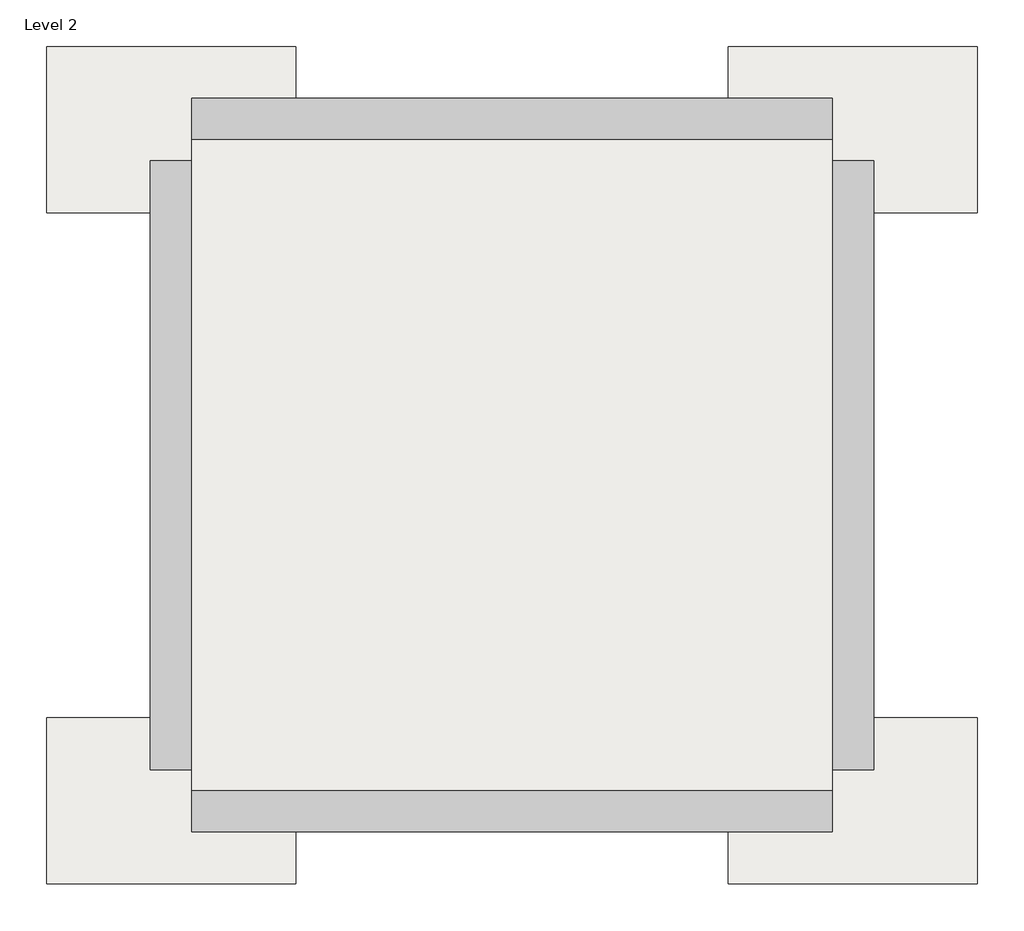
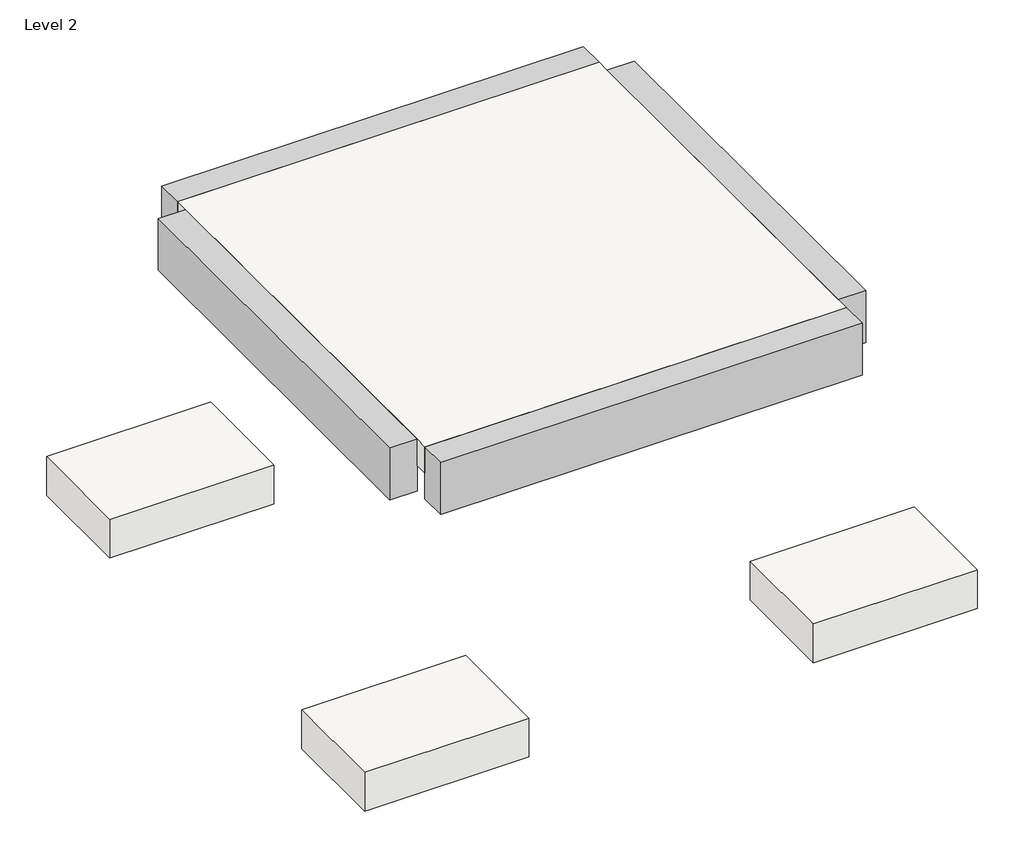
# One storey: 5 slabs, 4 beams.
"""IFC4 building model written with IfcOpenShell, lengths in millimetres."""

import ifcopenshell
import ifcopenshell.guid

model = None  # the IFC model being written
_history = None  # IfcOwnerHistory: only IFC2X3 demands one
_inside = {}  # id of a spatial element -> (the spatial element, [elements in it])
_under = {}  # id of a project, library or spatial element -> (it, [spatial elements below it])
_declared = {}  # id of a project -> (the project, [libraries it declares])
_typed = {}  # id of a type object -> (the type object, [elements of that type])
_made_of = {}  # id of a material, layer set ... -> (it, [elements and type objects made of it])


def new_model(schema):
    """Start an empty IFC model of exactly this schema.

    Asked for "IFC4X3", IfcOpenShell would pick the latest addendum, in which some entities
    have other attributes; the version numbers below select the first issue.
    IFC2X3 requires an IfcOwnerHistory on every rooted entity: one is made here for all.
    """
    global model, _history
    if schema == "IFC4X3":
        model = ifcopenshell.file(schema_version=(4, 3, 0, 0))
    else:
        model = ifcopenshell.file(schema=schema)
    _inside.clear()
    _under.clear()
    _declared.clear()
    _typed.clear()
    _made_of.clear()
    _history = None
    if model.schema == "IFC2X3":
        org = make("IfcOrganization", Name="unknown")
        user = make(
            "IfcPersonAndOrganization",
            ThePerson=make("IfcPerson", FamilyName="unknown"),
            TheOrganization=org,
        )
        app = make(
            "IfcApplication",
            ApplicationDeveloper=org,
            Version="unknown",
            ApplicationFullName="unknown",
            ApplicationIdentifier="unknown",
        )
        _history = make(
            "IfcOwnerHistory",
            OwningUser=user,
            OwningApplication=app,
            ChangeAction="ADDED",
            CreationDate=0,
        )
    return model


def make(cls, **values):
    """One entity of the class cls with the attributes given. An attribute that is None is left unset."""
    return model.create_entity(
        cls, **{name: value for name, value in values.items() if value is not None}
    )


def rooted(cls, **values):
    """An entity with a GlobalId (a new one), such as an element, a storey or a relation."""
    return make(cls, GlobalId=ifcopenshell.guid.new(), OwnerHistory=_history, **values)


def si_unit(unit_type, name, prefix=None):
    """IfcSIUnit, for example si_unit("LENGTHUNIT", "METRE", prefix="MILLI")."""
    return make("IfcSIUnit", UnitType=unit_type, Prefix=prefix, Name=name)


def assignment(units):
    """IfcUnitAssignment: the units of a project."""
    return None if units is None else make("IfcUnitAssignment", Units=units)


def point(xyz):
    """IfcCartesianPoint."""
    return None if xyz is None else make("IfcCartesianPoint", Coordinates=xyz)


def direction(xyz):
    """IfcDirection."""
    return None if xyz is None else make("IfcDirection", DirectionRatios=xyz)


def frame(location, z_axis=None, x_axis=None):
    """IfcAxis2Placement3D, a coordinate frame: its origin and axes. An axis left out is left unset."""
    return make(
        "IfcAxis2Placement3D",
        Location=point(location),
        Axis=direction(z_axis),
        RefDirection=direction(x_axis),
    )


def origin():
    """The frame at (0, 0, 0) with its axes left unset."""
    return frame((0.0, 0.0, 0.0))


def place(relative_to, where):
    """IfcLocalPlacement: puts the frame where relative to a parent placement (None: the world)."""
    return make(
        "IfcLocalPlacement", PlacementRelTo=relative_to, RelativePlacement=where
    )


def context(
    kind, dimensions, precision=None, world=None, true_north=None, identifier=None
):
    """IfcGeometricRepresentationContext, for example the 3D "Model" context."""
    return make(
        "IfcGeometricRepresentationContext",
        ContextIdentifier=identifier,
        ContextType=kind,
        CoordinateSpaceDimension=dimensions,
        Precision=precision,
        WorldCoordinateSystem=world,
        TrueNorth=true_north,
    )


def project(units=None, contexts=None):
    """IfcProject with its units and contexts."""
    return rooted(
        "IfcProject",
        Name="project",
        RepresentationContexts=contexts,
        UnitsInContext=assignment(units),
    )


def spatial(cls, under=None, at=None, **own):
    """A site, building, storey or space (cls), placed at a placement, below another one or the project."""
    s = rooted(cls, ObjectPlacement=at, **own)
    if under is not None:
        _under.setdefault(under.id(), (under, []))[1].append(s)
    return s


def polyline(points):
    """IfcPolyline through the points."""
    return make("IfcPolyline", Points=[point(p) for p in points])


def outline(outer, holes=None, kind="AREA"):
    """IfcArbitraryClosedProfileDef: a profile drawn as a closed curve; with holes, ...WithVoids."""
    if holes is None:
        return make("IfcArbitraryClosedProfileDef", ProfileType=kind, OuterCurve=outer)
    return make(
        "IfcArbitraryProfileDefWithVoids",
        ProfileType=kind,
        OuterCurve=outer,
        InnerCurves=holes,
    )


def extrude(swept, where, along, depth):
    """IfcExtrudedAreaSolid: the profile swept, set in the frame where, extruded along a direction by depth."""
    return make(
        "IfcExtrudedAreaSolid",
        SweptArea=swept,
        Position=where,
        ExtrudedDirection=direction(along),
        Depth=depth,
    )


def faces_of(points, faces, orient=None, outer=None):
    """IfcFace entities. A face is a list of loops; a loop is a list of indices into points, from 0.

    orient and outer hold one flag for each loop. By default every Orientation is true, the
    first loop of a face is its IfcFaceOuterBound and the others are IfcFaceBound.
    """
    made = []
    for i, loops in enumerate(faces):
        bounds = []
        for j, loop in enumerate(loops):
            is_outer = j == 0 if outer is None else outer[i][j]
            bounds.append(
                make(
                    "IfcFaceOuterBound" if is_outer else "IfcFaceBound",
                    Bound=make("IfcPolyLoop", Polygon=[points[k] for k in loop]),
                    Orientation=True if orient is None else orient[i][j],
                )
            )
        made.append(make("IfcFace", Bounds=bounds))
    return made


def faceted_brep(points, faces, orient=None, outer=None, voids=None):
    """IfcFacetedBrep: a solid bounded by flat faces; with voids (closed shells), ...WithVoids."""
    shared = [point(p) for p in points]
    hull = make("IfcClosedShell", CfsFaces=faces_of(shared, faces, orient, outer))
    if voids is None:
        return make("IfcFacetedBrep", Outer=hull)
    return make(
        "IfcFacetedBrepWithVoids",
        Outer=hull,
        Voids=[
            make(cls, CfsFaces=faces_of(shared, fs, o, b)) for cls, fs, o, b in voids
        ],
    )


def shape(context_of_items, identifier, shape_type, items):
    """IfcShapeRepresentation: the items that make up one representation, for example the "Body"."""
    return make(
        "IfcShapeRepresentation",
        ContextOfItems=context_of_items,
        RepresentationIdentifier=identifier,
        RepresentationType=shape_type,
        Items=items,
    )


def source(mapping_origin, context_of_items, identifier, shape_type, items):
    """IfcRepresentationMap: a shape defined once, which mapped items show again and again."""
    return make(
        "IfcRepresentationMap",
        MappingOrigin=mapping_origin,
        MappedRepresentation=shape(context_of_items, identifier, shape_type, items),
    )


def transform(
    local_origin,
    x_axis=None,
    y_axis=None,
    z_axis=None,
    scale=None,
    scale2=None,
    scale3=None,
    uniform=True,
):
    """IfcCartesianTransformationOperator3D, or its non-uniform kind. x_axis, y_axis, z_axis: its Axis1, 2, 3."""
    if uniform:
        return make(
            "IfcCartesianTransformationOperator3D",
            Axis1=direction(x_axis),
            Axis2=direction(y_axis),
            LocalOrigin=point(local_origin),
            Scale=scale,
            Axis3=direction(z_axis),
        )
    return make(
        "IfcCartesianTransformationOperator3DnonUniform",
        Axis1=direction(x_axis),
        Axis2=direction(y_axis),
        LocalOrigin=point(local_origin),
        Scale=scale,
        Axis3=direction(z_axis),
        Scale2=scale2,
        Scale3=scale3,
    )


def mapped(mapping_source, mapping_target):
    """IfcMappedItem: shows the shape of a source again, moved by a transform."""
    return make(
        "IfcMappedItem", MappingSource=mapping_source, MappingTarget=mapping_target
    )


def made_of(thing, what):
    """Note that an element or type object is made of a material, layer set ...; save() writes the relation."""
    if what is not None:
        _made_of.setdefault(what.id(), (what, []))[1].append(thing)
    return thing


def element(
    cls,
    number,
    at=None,
    inside=None,
    cuts=None,
    type_object=None,
    material=None,
    context=None,
    identifier="Body",
    shape_type=None,
    held_by="IfcProductDefinitionShape",
    body=None,
    shapes=None,
    **own,
):
    """One element of the class cls, such as IfcWall. Its Tag is "e" and its number.

    at: its placement. inside: the storey or other place that contains it. cuts: it is an
    opening in that element (IfcRelVoidsElement). A single representation is given by context,
    identifier, shape_type and body (its items); several are given by shapes. held_by: the class
    of the entity that holds the representations. save() writes the other relations.
    """
    e = rooted(cls, Tag="e%d" % number, ObjectPlacement=at, **own)
    if body is not None:
        shapes = [shape(context, identifier, shape_type, body)]
    if shapes is not None:
        e.Representation = make(held_by, Representations=shapes)
    if inside is not None:
        _inside.setdefault(inside.id(), (inside, []))[1].append(e)
    if cuts is not None:
        rooted(
            "IfcRelVoidsElement", RelatingBuildingElement=cuts, RelatedOpeningElement=e
        )
    if type_object is not None:
        _typed.setdefault(type_object.id(), (type_object, []))[1].append(e)
    return made_of(e, material)


def aggregate(whole, parts):
    """IfcRelAggregates: a whole, such as a stair, and the parts it consists of."""
    return rooted("IfcRelAggregates", RelatingObject=whole, RelatedObjects=parts)


def save(model, path):
    """Write the relations noted so far, then the file.

    IfcRelAggregates (storeys below a building ...), IfcRelContainedInSpatialStructure (elements
    in a storey), IfcRelDefinesByType, IfcRelAssociatesMaterial and IfcRelDeclares: one each for
    every whole, place, type object, material and project.
    """
    for whole, parts in _under.values():
        aggregate(whole, parts)
    for where, things in _inside.values():
        rooted(
            "IfcRelContainedInSpatialStructure",
            RelatedElements=things,
            RelatingStructure=where,
        )
    for kind, things in _typed.values():
        rooted("IfcRelDefinesByType", RelatedObjects=things, RelatingType=kind)
    for what, things in _made_of.values():
        rooted("IfcRelAssociatesMaterial", RelatedObjects=things, RelatingMaterial=what)
    for by, libraries in _declared.values():
        rooted("IfcRelDeclares", RelatingContext=by, RelatedDefinitions=libraries)
    model.write(path)


def slab_5ba74754(model_context):
    return source(origin(), model_context, "Body", "SweptSolid", [
        extrude(outline(polyline([(609.6, 914.4), (609.6, -914.4), (-609.6, -914.4), (-609.6, 914.4), (609.6, 914.4)])), frame((0.0, 0.0, -457.2), z_axis=(0.0, 0.0, 1.0), x_axis=(1.0, 0.0, 0.0)), (0.0, 0.0, 1.0), 457.2),
    ])


model = new_model("IFC4")

# Units and contexts
model_context = context("Model", 3, world=origin())
ifc_project = project(units=[si_unit("LENGTHUNIT", "METRE", prefix="MILLI")], contexts=[model_context])

# Site, building, storey
site = spatial("IfcSite", under=ifc_project)
building = spatial("IfcBuilding", under=site)
storey = spatial("IfcBuildingStorey", under=building, Name="Level 2", Elevation=3048.0)

# Beams
placement = place(None, origin())
element("IfcBeam", 1, ObjectType="Concrete-Rectangular Beam : 12 x 24", at=placement, inside=storey, context=model_context, shape_type="SweptSolid", body=[
    extrude(outline(polyline([(-12062.9372644, 13782.6603403), (-11758.1372644, 13782.6603403), (-11758.1372644, 9316.0603403), (-12062.9372644, 9316.0603403), (-12062.9372644, 13782.6603403)])), frame((0.0, 0.0, 2438.4), z_axis=(0.0, 0.0, 1.0), x_axis=(1.0, 0.0, 0.0)), (0.0, 0.0, 1.0), 609.6),
])
element("IfcBeam", 2, ObjectType="Concrete-Rectangular Beam : 12 x 24", at=placement, inside=storey, context=model_context, shape_type="Brep", body=[
    faceted_brep([(-11758.1372644, 14239.8603403, 3048.0), (-11758.1372644, 13935.0603403, 3048.0), (-7062.9372644, 13935.0603403, 3048.0), (-7062.9372644, 14239.8603403, 3048.0), (-11758.1372644, 13935.0603403, 2743.2), (-11758.1372644, 13935.0603403, 2438.4), (-7062.9372644, 13935.0603403, 2438.4), (-7062.9372644, 13935.0603403, 2743.2), (-11758.1372644, 14239.8603403, 2438.4), (-7062.9372644, 14239.8603403, 2438.4)], [[[0, 1, 2, 3]], [[1, 4, 5, 6, 7, 2]], [[5, 8, 9, 6]], [[8, 0, 3, 9]], [[5, 4, 1, 0, 8]], [[3, 2, 7, 6, 9]]]),
])
element("IfcBeam", 3, ObjectType="Concrete-Rectangular Beam : 12 x 24", at=placement, inside=storey, context=model_context, shape_type="SweptSolid", body=[
    extrude(outline(polyline([(-7062.9372644, 13782.6603403), (-6758.1372644, 13782.6603403), (-6758.1372644, 9316.0603403), (-7062.9372644, 9316.0603403), (-7062.9372644, 13782.6603403)])), frame((0.0, 0.0, 2438.4), z_axis=(0.0, 0.0, 1.0), x_axis=(1.0, 0.0, 0.0)), (0.0, 0.0, 1.0), 609.6),
])
element("IfcBeam", 4, ObjectType="Concrete-Rectangular Beam : 12 x 24", at=placement, inside=storey, context=model_context, shape_type="Brep", body=[
    faceted_brep([(-7062.9372644, 8858.8603403, 3048.0), (-7062.9372644, 9163.6603403, 3048.0), (-11758.1372644, 9163.6603403, 3048.0), (-11758.1372644, 8858.8603403, 3048.0), (-7062.9372644, 9163.6603403, 2743.2), (-7062.9372644, 9163.6603403, 2438.4), (-11758.1372644, 9163.6603403, 2438.4), (-11758.1372644, 9163.6603403, 2743.2), (-7062.9372644, 8858.8603403, 2438.4), (-11758.1372644, 8858.8603403, 2438.4)], [[[0, 1, 2, 3]], [[1, 4, 5, 6, 7, 2]], [[5, 8, 9, 6]], [[8, 0, 3, 9]], [[5, 4, 1, 0, 8]], [[3, 2, 7, 6, 9]]]),
])

# Slabs
slab_shape = slab_5ba74754(model_context)
element("IfcSlab", 5, ObjectType="Footing-Rectangular : 72\" x 48\" x 18\"", at=placement, inside=storey, context=model_context, shape_type="MappedRepresentation", body=[
    mapped(slab_shape, transform((-11910.5372644, 14011.2603403, 0.0), x_axis=(0.0, 1.0, 0.0), y_axis=(-1.0, 0.0, 0.0), z_axis=(0.0, 0.0, 1.0))),
])
element("IfcSlab", 6, ObjectType="Footing-Rectangular : 72\" x 48\" x 18\"", at=placement, inside=storey, context=model_context, shape_type="MappedRepresentation", body=[
    mapped(slab_shape, transform((-6910.5372644, 14011.2603403, 0.0), x_axis=(0.0, 1.0, 0.0), y_axis=(-1.0, 0.0, 0.0), z_axis=(0.0, 0.0, 1.0))),
])
element("IfcSlab", 7, ObjectType="Footing-Rectangular : 72\" x 48\" x 18\"", at=placement, inside=storey, context=model_context, shape_type="MappedRepresentation", body=[
    mapped(slab_shape, transform((-6910.5372644, 9087.4603403, 0.0), x_axis=(0.0, 1.0, 0.0), y_axis=(-1.0, 0.0, 0.0), z_axis=(0.0, 0.0, 1.0))),
])
element("IfcSlab", 8, ObjectType="Footing-Rectangular : 72\" x 48\" x 18\"", at=placement, inside=storey, context=model_context, shape_type="MappedRepresentation", body=[
    mapped(slab_shape, transform((-11910.5372644, 9087.4603403, 0.0), x_axis=(0.0, 1.0, 0.0), y_axis=(-1.0, 0.0, 0.0), z_axis=(0.0, 0.0, 1.0))),
])
element("IfcSlab", 9, ObjectType="Generic - 12\"", at=placement, inside=storey, context=model_context, shape_type="Brep", body=[
    faceted_brep([(-7062.9372644, 13935.0603403, 2743.2), (-7062.9372644, 9163.6603403, 2743.2), (-11758.1372644, 9163.6603403, 2743.2), (-11758.1372644, 13935.0603403, 2743.2), (-7062.9372644, 13935.0603403, 3048.0), (-11758.1372644, 13935.0603403, 3048.0), (-11758.1372644, 13782.6603403, 3048.0), (-11758.1372644, 9316.0603403, 3048.0), (-11758.1372644, 9163.6603403, 3048.0), (-7062.9372644, 9163.6603403, 3048.0), (-7062.9372644, 9316.0603403, 3048.0), (-7062.9372644, 13782.6603403, 3048.0)], [[[0, 1, 2, 3]], [[4, 5, 6, 7, 8, 9, 10, 11]], [[1, 0, 4, 11, 10, 9]], [[2, 1, 9, 8]], [[3, 2, 8, 7, 6, 5]], [[0, 3, 5, 4]]]),
])

save(model, "model.ifc")
